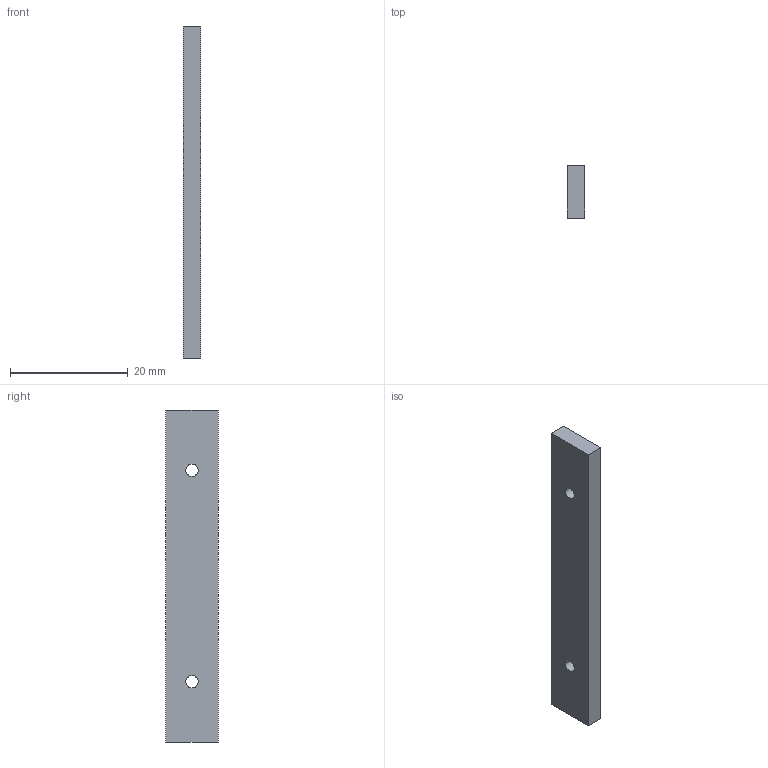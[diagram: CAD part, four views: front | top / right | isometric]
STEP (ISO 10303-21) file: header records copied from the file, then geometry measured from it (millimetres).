
FILE_DESCRIPTION(('Open CASCADE Model'),'2;1');
FILE_NAME('sliding-bar-guide.step','2026-11-14T14:31:58',('Author'),( 'Open CASCADE'),'Open CASCADE STEP processor 8.0','Open CASCADE 8.0' ,'Unknown');
FILE_SCHEMA(('AP242_MANAGED_MODEL_BASED_3D_ENGINEERING_MIM_LF {1 0 10303 442 1 1 4 }' ));
Length unit declared in the file: millimetre
Products named in the file (1): Sliding Bar Guide
Bounding box: 3 x 9 x 56.5 mm (x, y, z)
Volume: 1504.7 mm3; surface area: 1435.7 mm2
Topology: 1 solids, 1 shells, 10 faces, 24 edges, 16 vertices
Faces by surface type: plane 6, cylinder 4
Entity records: 626 total; most frequent: DIRECTION 102, CARTESIAN_POINT 99, LINE 56, VECTOR 56, ORIENTED_EDGE 48, PCURVE 48, DEFINITIONAL_REPRESENTATION 48, EDGE_CURVE 24
